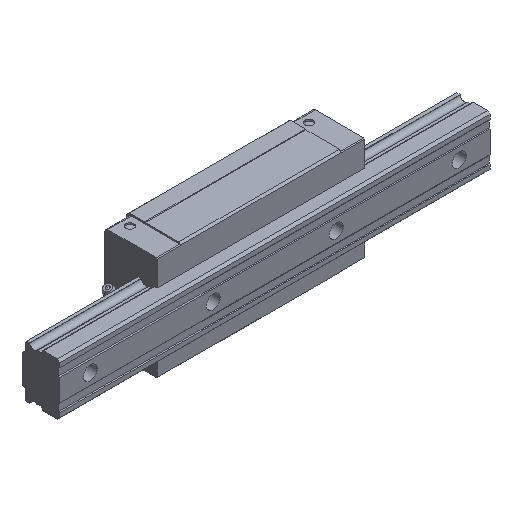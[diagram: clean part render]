
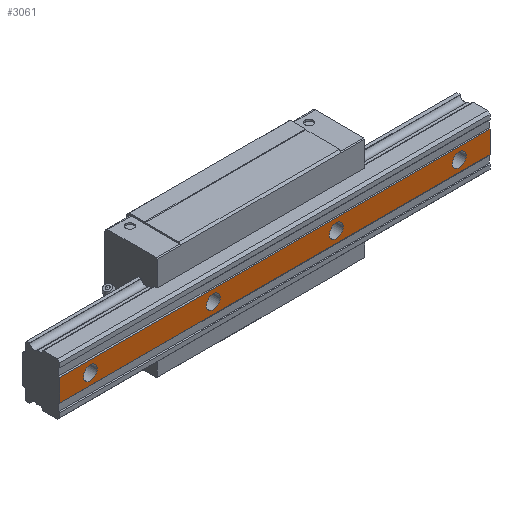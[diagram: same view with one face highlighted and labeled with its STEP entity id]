
A CAD part, isometric view. The second image highlights one B-rep face of the part: STEP entity #3061.
In plain terms, the highlighted planar face has unit normal (0, -1, 0).
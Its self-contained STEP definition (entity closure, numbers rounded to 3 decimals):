
#109=CIRCLE('',#3297,4.5);
#110=CIRCLE('',#3298,4.5);
#111=CIRCLE('',#3299,4.5);
#112=CIRCLE('',#3300,4.5);
#356=ORIENTED_EDGE('',*,*,#1207,.F.);
#357=ORIENTED_EDGE('',*,*,#1208,.F.);
#358=ORIENTED_EDGE('',*,*,#1209,.F.);
#359=ORIENTED_EDGE('',*,*,#1210,.F.);
#360=ORIENTED_EDGE('',*,*,#1211,.T.);
#361=ORIENTED_EDGE('',*,*,#1212,.F.);
#362=ORIENTED_EDGE('',*,*,#1213,.F.);
#363=ORIENTED_EDGE('',*,*,#1205,.T.);
#1205=EDGE_CURVE('',#1625,#1624,#1940,.T.);
#1207=EDGE_CURVE('',#1626,#1626,#109,.T.);
#1208=EDGE_CURVE('',#1627,#1627,#110,.T.);
#1209=EDGE_CURVE('',#1628,#1628,#111,.T.);
#1210=EDGE_CURVE('',#1629,#1629,#112,.T.);
#1211=EDGE_CURVE('',#1624,#1630,#1942,.T.);
#1212=EDGE_CURVE('',#1631,#1630,#1943,.T.);
#1213=EDGE_CURVE('',#1625,#1631,#1944,.T.);
#1624=VERTEX_POINT('',#4627);
#1625=VERTEX_POINT('',#4629);
#1626=VERTEX_POINT('',#4633);
#1627=VERTEX_POINT('',#4635);
#1628=VERTEX_POINT('',#4637);
#1629=VERTEX_POINT('',#4639);
#1630=VERTEX_POINT('',#4641);
#1631=VERTEX_POINT('',#4643);
#1940=LINE('',#4628,#2204);
#1942=LINE('',#4640,#2206);
#1943=LINE('',#4642,#2207);
#1944=LINE('',#4644,#2208);
#2204=VECTOR('',#3688,1000.);
#2206=VECTOR('',#3700,1000.);
#2207=VECTOR('',#3701,1000.);
#2208=VECTOR('',#3702,1000.);
#2451=EDGE_LOOP('',(#356));
#2452=EDGE_LOOP('',(#357));
#2453=EDGE_LOOP('',(#358));
#2454=EDGE_LOOP('',(#359));
#2455=EDGE_LOOP('',(#360,#361,#362,#363));
#2702=FACE_BOUND('',#2451,.T.);
#2703=FACE_BOUND('',#2452,.T.);
#2704=FACE_BOUND('',#2453,.T.);
#2705=FACE_BOUND('',#2454,.T.);
#2706=FACE_BOUND('',#2455,.T.);
#2956=PLANE('',#3296);
#3061=ADVANCED_FACE('',(#2702,#2703,#2704,#2705,#2706),#2956,.F.);
#3296=AXIS2_PLACEMENT_3D('',#4631,#3690,#3691);
#3297=AXIS2_PLACEMENT_3D('',#4632,#3692,#3693);
#3298=AXIS2_PLACEMENT_3D('',#4634,#3694,#3695);
#3299=AXIS2_PLACEMENT_3D('',#4636,#3696,#3697);
#3300=AXIS2_PLACEMENT_3D('',#4638,#3698,#3699);
#3688=DIRECTION('',(-1.,0.,0.));
#3690=DIRECTION('',(0.,1.,0.));
#3691=DIRECTION('',(0.,0.,1.));
#3692=DIRECTION('',(0.,-1.,0.));
#3693=DIRECTION('',(0.,0.,-1.));
#3694=DIRECTION('',(0.,-1.,0.));
#3695=DIRECTION('',(0.,0.,-1.));
#3696=DIRECTION('',(0.,-1.,0.));
#3697=DIRECTION('',(0.,0.,-1.));
#3698=DIRECTION('',(0.,-1.,0.));
#3699=DIRECTION('',(0.,0.,-1.));
#3700=DIRECTION('',(0.,0.,-1.));
#3701=DIRECTION('',(-1.,0.,0.));
#3702=DIRECTION('',(0.,0.,-1.));
#4627=CARTESIAN_POINT('',(-20.,0.,7.2));
#4628=CARTESIAN_POINT('',(260.,0.,7.2));
#4629=CARTESIAN_POINT('',(260.,0.,7.2));
#4631=CARTESIAN_POINT('',(260.,0.,7.2));
#4632=CARTESIAN_POINT('',(80.,0.,0.));
#4633=CARTESIAN_POINT('',(80.,0.,-4.5));
#4634=CARTESIAN_POINT('',(160.,0.,0.));
#4635=CARTESIAN_POINT('',(160.,0.,-4.5));
#4636=CARTESIAN_POINT('',(240.,0.,0.));
#4637=CARTESIAN_POINT('',(240.,0.,-4.5));
#4638=CARTESIAN_POINT('',(0.,0.,0.));
#4639=CARTESIAN_POINT('',(0.,0.,-4.5));
#4640=CARTESIAN_POINT('',(-20.,0.,7.2));
#4641=CARTESIAN_POINT('',(-20.,0.,-7.2));
#4642=CARTESIAN_POINT('',(260.,0.,-7.2));
#4643=CARTESIAN_POINT('',(260.,0.,-7.2));
#4644=CARTESIAN_POINT('',(260.,0.,7.2));
